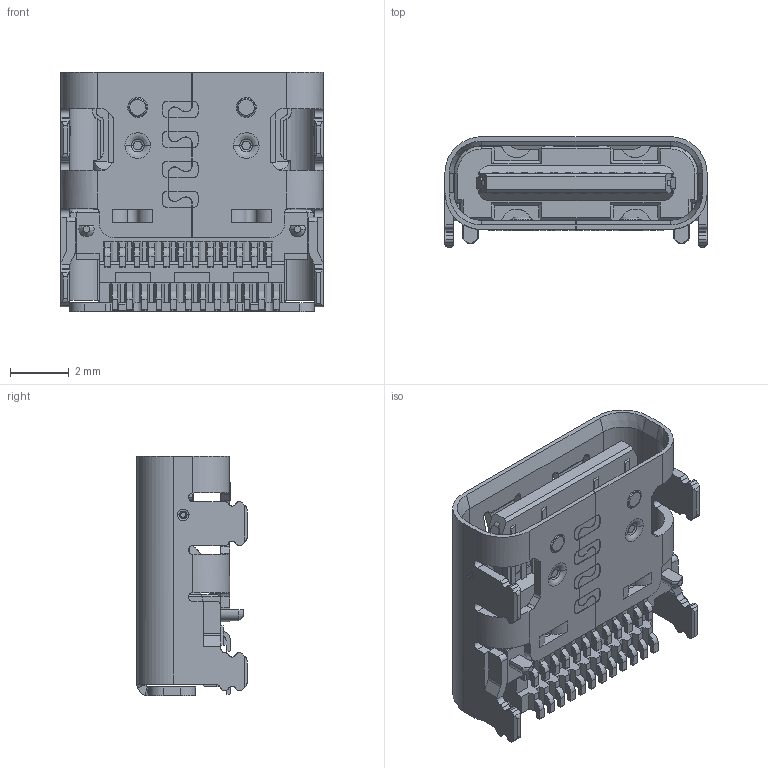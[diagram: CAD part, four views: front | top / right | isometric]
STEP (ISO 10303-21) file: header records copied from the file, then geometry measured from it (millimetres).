
FILE_DESCRIPTION (( 'STEP AP214' ), '1' );
FILE_NAME ('U5428-24PNT0.6J8.17LB.STEP', '2026-06-04T02:34:35', ( '' ), ( '' ), 'SwSTEP 2.0', 'SolidWorks 2024', '' );
FILE_SCHEMA (( 'AUTOMOTIVE_DESIGN' ));
Length unit declared in the file: millimetre
Products named in the file (4): Shell_single_CH1.6_1; U5428-24PNT0.6J8.17LB; U5428-24PNT0.6J8.17LB(2); Shell_single_CH1.6-0_1
Assembly tree (3 placements, depth 4):
  U5428-24PNT0.6J8.17LB
    U5428-24PNT0.6J8.17LB(2)
      Shell_single_CH1.6_1
        Shell_single_CH1.6-0_1
Bounding box: 8.94 x 3.76 x 8.17 mm (x, y, z)
Surface area: 608.4 mm2 (no closed solid volume)
Topology: 0 solids, 54 shells, 1848 faces, 5061 edges, 3300 vertices
Faces by surface type: plane 1459, cylinder 307, torus 40, cone 30, bspline 12
Entity records: 64476 total; most frequent: CARTESIAN_POINT 27181, ORIENTED_EDGE 10104, EDGE_CURVE 5061, B_SPLINE_CURVE_WITH_KNOTS 5025, DIRECTION 3724, VERTEX_POINT 3300, EDGE_LOOP 1897, FACE_OUTER_BOUND 1848
